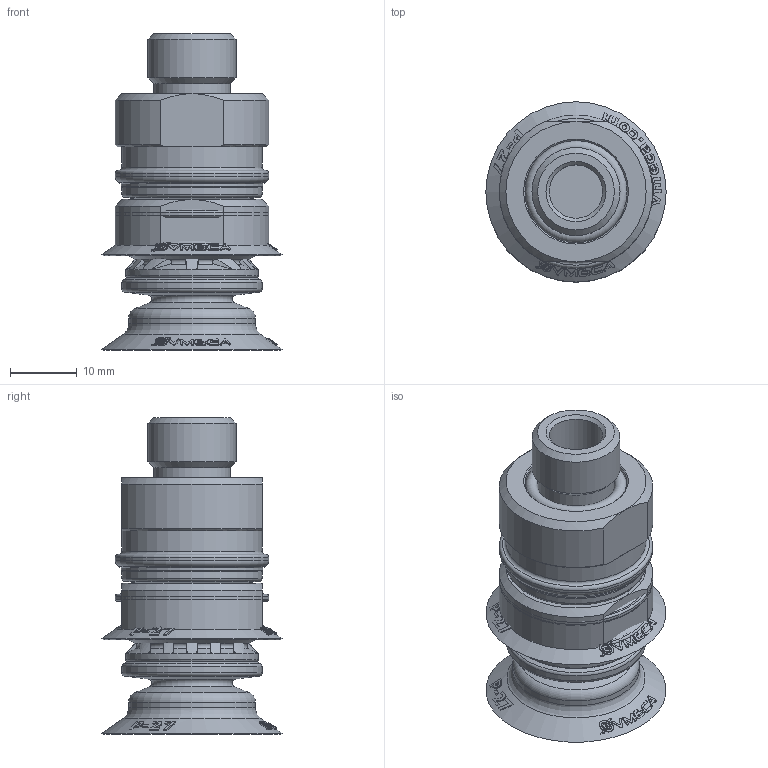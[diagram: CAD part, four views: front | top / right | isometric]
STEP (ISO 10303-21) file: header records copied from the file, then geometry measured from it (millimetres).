
FILE_DESCRIPTION( ( 'Unknown' ), '1' );
FILE_NAME( 'C:/Documents and Settings/Administrator/官帕 拳搁/Magic Cup (Dim)/B2.5/P TYPE/B2.5-20/B2.5-20-P27-N6-D-F2-14M.stp', 'Unknown', ( 'Unknown' ), ( 'Unknown' ), 'XStep 1.0', 'Unknown', ' ' );
FILE_SCHEMA( ( 'automotive_design' ) );
Length unit declared in the file: millimetre
Products named in the file (8): Assem1; Assem2; Assem3; B2.5-20; 20-14M(DIM); 14M-Oring(DIM); 赤20 STOPPER ; P27
Bounding box: 27 x 27 x 47.49 mm (x, y, z)
Volume: 24831.7 mm3; surface area: 30633.2 mm2
Topology: 15 solids, 15 shells, 1839 faces, 4680 edges, 2982 vertices
Faces by surface type: bspline 543, plane 471, cone 309, cylinder 261, torus 255
Full cylindrical faces by diameter (mm): 8 x3, 9.8 x3, 10 x3, 11.5 x3, 11.9 x6, 13.2 x3, 13.4 x6, 14.475 x3, 15 x9, 15.3 x3, 15.673 x3, 15.7 x3, 16 x3, 17 x3, 17.5 x3, 17.527 x3, 19 x3, 19.8 x3, 21 x6, 21.18 x3, 23 x9
Entity records: 25231 total; most frequent: CARTESIAN_POINT 10215, ORIENTED_EDGE 2906, DIRECTION 1820, EDGE_CURVE 1453, VERTEX_POINT 988, B_SPLINE_CURVE_WITH_KNOTS 874, AXIS2_PLACEMENT_3D 801, EDGE_LOOP 761
